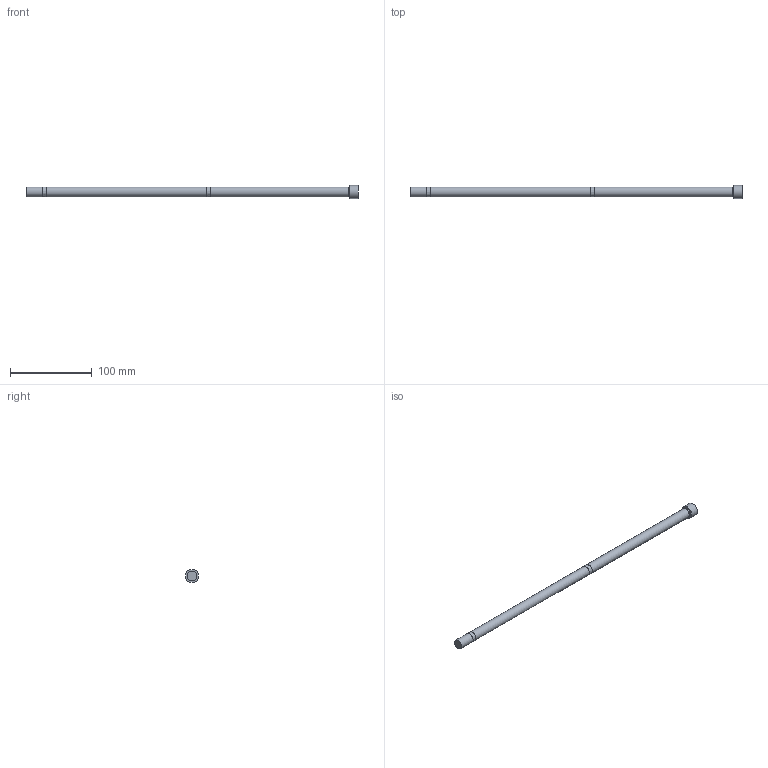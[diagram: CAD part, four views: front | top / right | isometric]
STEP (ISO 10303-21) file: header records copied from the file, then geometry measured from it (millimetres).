
FILE_DESCRIPTION(('STEP AP203'), '1');
FILE_NAME('33 Òîëêàòåëü _ ÏÔÍ 295 16033', '', ('UNSPECIFIED'), ('UNSPECIFIED'), 'C3D Converter', 'C3D Toolkit', '');
FILE_SCHEMA(('CONFIG_CONTROL_DESIGN'));
Length unit declared in the file: millimetre
Products named in the file (1): ПФН 295 160/33
Bounding box: 406.4 x 16 x 16 mm (x, y, z)
Volume: 46071 mm3; surface area: 15737.6 mm2
Topology: 1 solids, 1 shells, 11 faces, 17 edges, 10 vertices
Faces by surface type: cylinder 5, plane 4, cone 2
Full cylindrical faces by diameter (mm): 11.5 x1, 11.8 x1, 12 x2, 16 x1
Entity records: 337 total; most frequent: DIRECTION 44, CARTESIAN_POINT 32, AXIS2_PLACEMENT_3D 22, EDGE_LOOP 20, ORIENTED_EDGE 20, FACE_OUTER_BOUND 14, COLOUR_RGB 12, FILL_AREA_STYLE_COLOUR 12
